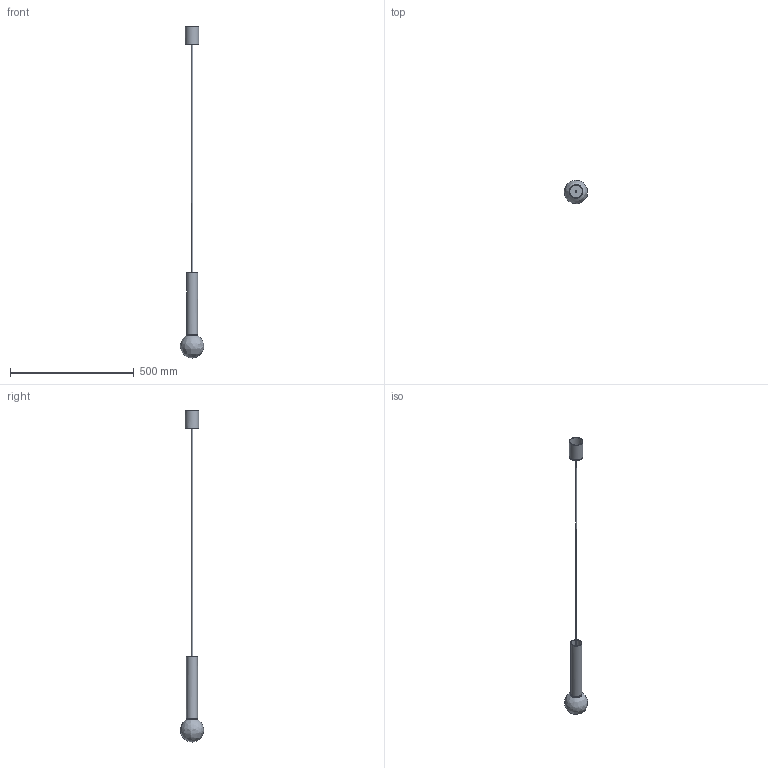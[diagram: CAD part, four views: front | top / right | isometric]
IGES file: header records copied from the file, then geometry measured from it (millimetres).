
Start section: SolidWorks IGES file using NURBS representation for surfaces
Global section: file name: Z:\Modele 3D_WWW\_KOLEKCJE_WWW\BATON\BATON-M-7852\BATON-M-7852.IGS; native system: SolidWorks 2021; preprocessor: SolidWorks 2021; author: gabriela.tworek; date: 211118.095613; units: millimetre
Bounding box: 94.68 x 94.58 x 1342.26 mm (x, y, z)
Surface area: 145735 mm2 (no closed solid volume)
Topology: 0 solids, 0 shells, 20 faces, 85 edges, 74 vertices
Faces by surface type: bspline 20
